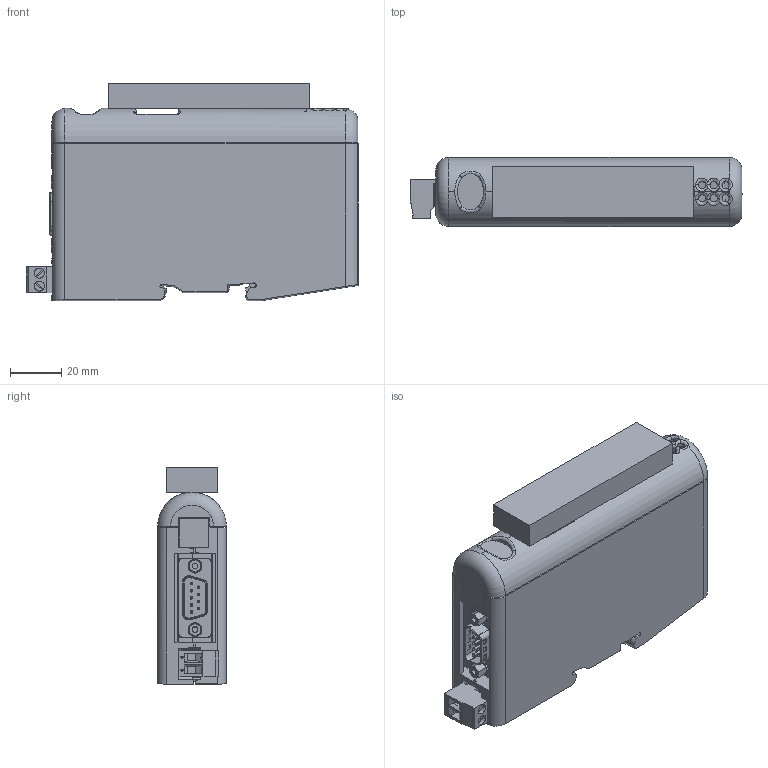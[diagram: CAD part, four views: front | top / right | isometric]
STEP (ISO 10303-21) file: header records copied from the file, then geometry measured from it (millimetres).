
FILE_DESCRIPTION (( 'STEP AP214' ), '1' );
FILE_NAME ('ABC generic can dimensions.STEP', '2011-07-07T11:29:35', ( '' ), ( '' ), 'SwSTEP 2.0', 'SolidWorks 2010', '' );
FILE_SCHEMA (( 'AUTOMOTIVE_DESIGN' ));
Length unit declared in the file: millimetre
Products named in the file (1): ABC generic can dimensions
Bounding box: 130.16 x 27 x 85.45 mm (x, y, z)
Volume: 80919.9 mm3; surface area: 81410.8 mm2
Topology: 24 solids, 26 shells, 2558 faces, 6819 edges, 4441 vertices
Faces by surface type: plane 1500, bspline 430, cylinder 367, cone 175, torus 78, sphere 8
Entity records: 153367 total; most frequent: CARTESIAN_POINT 64610, ORIENTED_EDGE 13622, DIRECTION 10768, EDGE_CURVE 6811, VERTEX_POINT 4441, LINE 4392, VECTOR 4392, AXIS2_PLACEMENT_3D 3188
